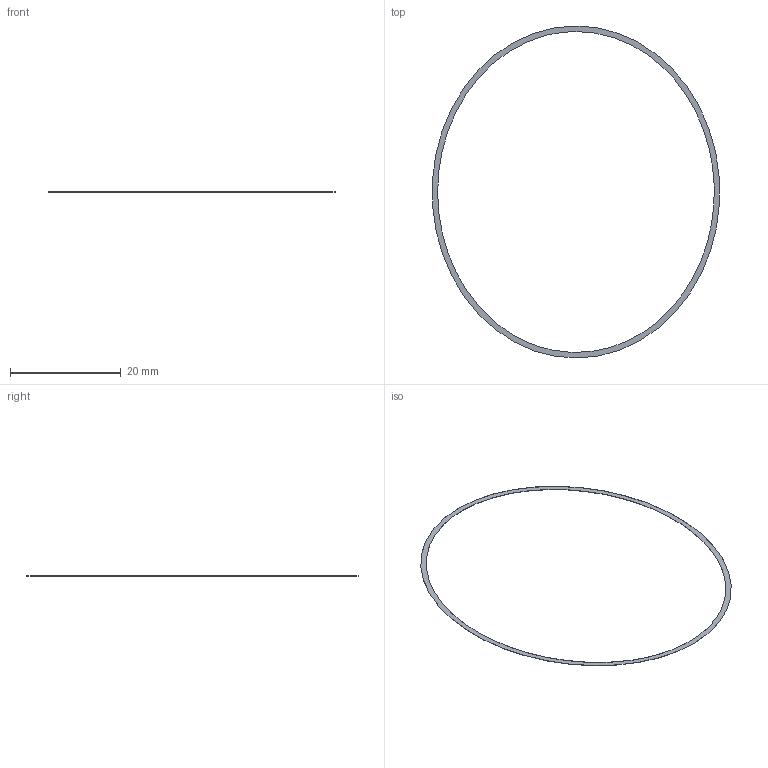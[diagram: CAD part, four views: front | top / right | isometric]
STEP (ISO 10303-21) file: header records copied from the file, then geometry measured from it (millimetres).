
FILE_DESCRIPTION(('Open CASCADE Model'),'2;1');
FILE_NAME('Open CASCADE Shape Model','2026-09-06T11:41:05',('Author'),( 'Open CASCADE'),'Open CASCADE STEP processor 7.7','Open CASCADE 7.7' ,'Unknown');
FILE_SCHEMA(('AUTOMOTIVE_DESIGN { 1 0 10303 214 1 1 1 1 }'));
Length unit declared in the file: millimetre
Products named in the file (1): Open CASCADE STEP translator 7.7 3
Bounding box: 51.89 x 60 x 0.04 mm (x, y, z)
Volume: 6.9 mm3; surface area: 359.4 mm2
Topology: 1 solids, 1 shells, 4 faces, 6 edges, 4 vertices
Faces by surface type: extrusion 2, plane 2
Entity records: 1156 total; most frequent: CARTESIAN_POINT 1005, DIRECTION 26, ORIENTED_EDGE 12, PCURVE 12, DEFINITIONAL_REPRESENTATION 12, VECTOR 10, LINE 8, AXIS2_PLACEMENT_3D 7
